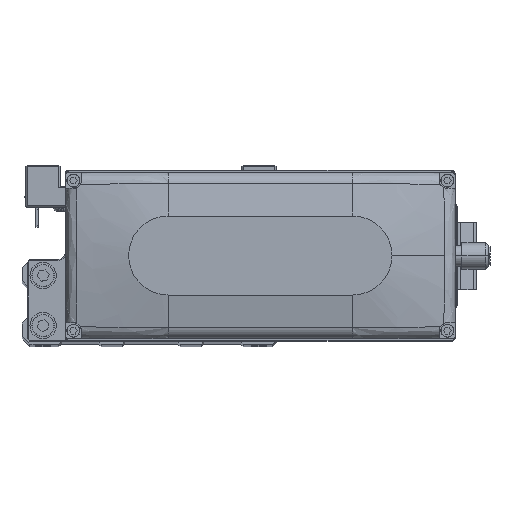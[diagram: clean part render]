
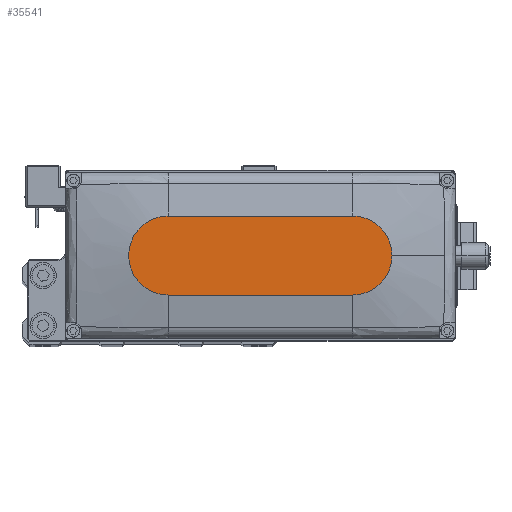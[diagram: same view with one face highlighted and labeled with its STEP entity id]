
A CAD part, top view. The second image highlights one B-rep face of the part: STEP entity #35541.
In plain terms, the highlighted planar face has unit normal (0, 0, 1).
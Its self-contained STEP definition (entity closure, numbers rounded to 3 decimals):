
#99 = PLANE ( 'NONE',  #14832 ) ;
#1939 = CIRCLE ( 'NONE', #25366, 15. ) ;
#5162 = AXIS2_PLACEMENT_3D ( 'NONE', #24803, #37667, #8888 ) ;
#5410 = CARTESIAN_POINT ( 'NONE',  ( -35., 15., 35. ) ) ;
#5493 = ORIENTED_EDGE ( 'NONE', *, *, #18428, .T. ) ;
#7089 = VERTEX_POINT ( 'NONE', #16055 ) ;
#7457 = CARTESIAN_POINT ( 'NONE',  ( -35., -15., 35. ) ) ;
#8593 = EDGE_CURVE ( 'NONE', #7089, #23070, #23235, .T. ) ;
#8888 = DIRECTION ( 'NONE',  ( 1., 0., 0. ) ) ;
#9795 = EDGE_LOOP ( 'NONE', ( #16453, #5493, #21329, #25875, #18928 ) ) ;
#11101 = DIRECTION ( 'NONE',  ( 0., 0., 1. ) ) ;
#11250 = AXIS2_PLACEMENT_3D ( 'NONE', #30176, #11101, #23871 ) ;
#11570 = EDGE_CURVE ( 'NONE', #17181, #40384, #34144, .T. ) ;
#12907 = CARTESIAN_POINT ( 'NONE',  ( 0., 0., 35. ) ) ;
#14832 = AXIS2_PLACEMENT_3D ( 'NONE', #12907, #25669, #38532 ) ;
#15902 = CARTESIAN_POINT ( 'NONE',  ( -35., 0., 35. ) ) ;
#16055 = CARTESIAN_POINT ( 'NONE',  ( 35., -15., 35. ) ) ;
#16453 = ORIENTED_EDGE ( 'NONE', *, *, #11570, .T. ) ;
#17181 = VERTEX_POINT ( 'NONE', #28907 ) ;
#17804 = VECTOR ( 'NONE', #18173, 1000. ) ;
#18173 = DIRECTION ( 'NONE',  ( -1., 0., 0. ) ) ;
#18428 = EDGE_CURVE ( 'NONE', #40384, #34432, #1939, .T. ) ;
#18928 = ORIENTED_EDGE ( 'NONE', *, *, #37826, .T. ) ;
#20225 = DIRECTION ( 'NONE',  ( 1., 0., 0. ) ) ;
#21329 = ORIENTED_EDGE ( 'NONE', *, *, #26379, .T. ) ;
#23070 = VERTEX_POINT ( 'NONE', #34419 ) ;
#23235 = CIRCLE ( 'NONE', #5162, 15. ) ;
#23871 = DIRECTION ( 'NONE',  ( 1., 0., 0. ) ) ;
#24803 = CARTESIAN_POINT ( 'NONE',  ( 35., 0., 35. ) ) ;
#24942 = DIRECTION ( 'NONE',  ( 1., 0., 0. ) ) ;
#25366 = AXIS2_PLACEMENT_3D ( 'NONE', #15902, #28699, #24942 ) ;
#25532 = VECTOR ( 'NONE', #20225, 1000. ) ;
#25669 = DIRECTION ( 'NONE',  ( 0., 0., 1. ) ) ;
#25875 = ORIENTED_EDGE ( 'NONE', *, *, #8593, .T. ) ;
#26379 = EDGE_CURVE ( 'NONE', #34432, #7089, #36220, .T. ) ;
#26386 = CARTESIAN_POINT ( 'NONE',  ( -35., -15., 35. ) ) ;
#28699 = DIRECTION ( 'NONE',  ( 0., 0., 1. ) ) ;
#28835 = FACE_OUTER_BOUND ( 'NONE', #9795, .T. ) ;
#28907 = CARTESIAN_POINT ( 'NONE',  ( 35., 15., 35. ) ) ;
#29334 = CIRCLE ( 'NONE', #11250, 15. ) ;
#30176 = CARTESIAN_POINT ( 'NONE',  ( 35., 0., 35. ) ) ;
#34144 = LINE ( 'NONE', #5410, #17804 ) ;
#34419 = CARTESIAN_POINT ( 'NONE',  ( 50., 0., 35. ) ) ;
#34432 = VERTEX_POINT ( 'NONE', #26386 ) ;
#35541 = ADVANCED_FACE ( 'NONE', ( #28835 ), #99, .T. ) ;
#36220 = LINE ( 'NONE', #7457, #25532 ) ;
#37372 = CARTESIAN_POINT ( 'NONE',  ( -35., 15., 35. ) ) ;
#37667 = DIRECTION ( 'NONE',  ( 0., 0., 1. ) ) ;
#37826 = EDGE_CURVE ( 'NONE', #23070, #17181, #29334, .T. ) ;
#38532 = DIRECTION ( 'NONE',  ( 1., 0., 0. ) ) ;
#40384 = VERTEX_POINT ( 'NONE', #37372 ) ;
